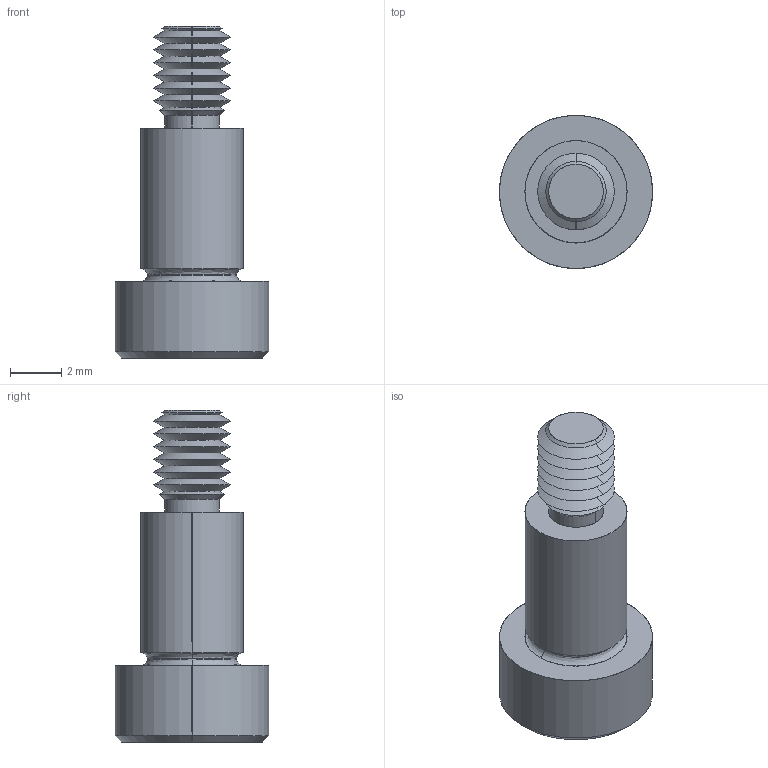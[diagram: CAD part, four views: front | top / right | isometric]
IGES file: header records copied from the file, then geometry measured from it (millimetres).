
Start section: SolidWorks IGES file using analytic representation for surfaces
Global section: file name: C:\Users\IanO\Documents\Temp Folder\GENERAL\SCREW REVISION\P0130_v2\P0130.T5_v2_20220106_IGES\P0130.040-006-T5.igs; native system: SolidWorks 2019; preprocessor: SolidWorks 2019; author: IanO; date: 220106.220534; units: millimetre
Bounding box: 6 x 6 x 13 mm (x, y, z)
Surface area: 260.3 mm2 (no closed solid volume)
Topology: 0 solids, 0 shells, 68 faces, 520 edges, 518 vertices
Faces by surface type: revolution 48, bspline 20
